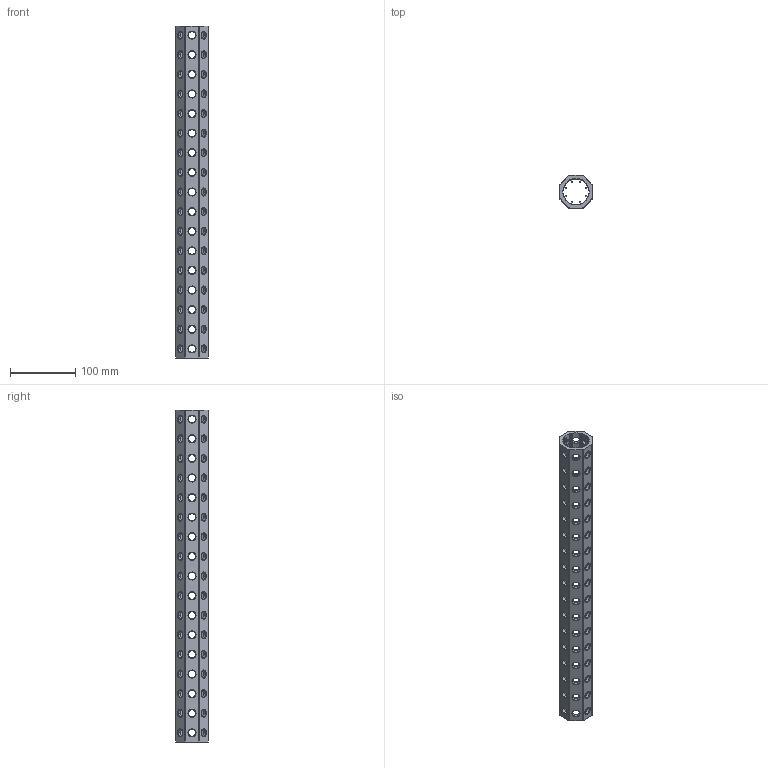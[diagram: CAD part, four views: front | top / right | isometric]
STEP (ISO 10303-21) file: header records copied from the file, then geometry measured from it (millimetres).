
FILE_DESCRIPTION(('CATIA V5 STEP Exchange'),'2;1');
FILE_NAME('U:\Room\唐宝山\EGT002\46-01-010246-01-EGT002-508.stp','2021-08-24T01:02:17+00:00',('none'),('none'),'CATIA Version 5 Release 21 GA (IN-10)','CATIA V5 STEP AP203','none');
FILE_SCHEMA(('CONFIG_CONTROL_DESIGN'));
Length unit declared in the file: millimetre
Products named in the file (1): 46-01-010246-01-EGT002-508
Bounding box: 50 x 50 x 508 mm (x, y, z)
Volume: 361749.9 mm3; surface area: 175749.5 mm2
Topology: 1 solids, 1 shells, 764 faces, 2116 edges, 1320 vertices
Faces by surface type: cone 408, cylinder 330, plane 26
Entity records: 31838 total; most frequent: CARTESIAN_POINT 13267, ORIENTED_EDGE 4232, DIRECTION 2983, EDGE_CURVE 2116, AXIS2_PLACEMENT_3D 1376, VERTEX_POINT 1320, EDGE_LOOP 1004, VECTOR 844
